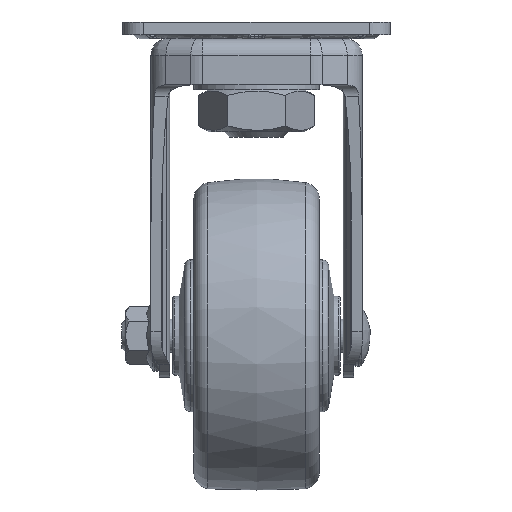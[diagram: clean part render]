
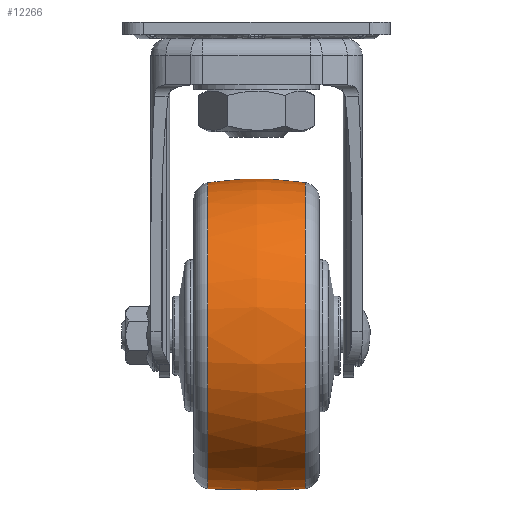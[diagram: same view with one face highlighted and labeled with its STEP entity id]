
A CAD part, left-side view. The second image highlights one B-rep face of the part: STEP entity #12266.
In plain terms, the highlighted free-form (B-spline) face has degree [2, 2] with [3, 9] control points.
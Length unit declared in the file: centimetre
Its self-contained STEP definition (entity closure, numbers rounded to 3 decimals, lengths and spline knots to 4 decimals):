
#3030=(
BOUNDED_CURVE()
B_SPLINE_CURVE(2,(#17763,#17764,#17765),.UNSPECIFIED.,.F.,.F.)
B_SPLINE_CURVE_WITH_KNOTS((3,3),(-0.1556,0.1556),
 .UNSPECIFIED.)
CURVE()
GEOMETRIC_REPRESENTATION_ITEM()
RATIONAL_B_SPLINE_CURVE((1.,0.988,1.))
REPRESENTATION_ITEM('')
);
#3061=(
BOUNDED_SURFACE()
B_SPLINE_SURFACE(2,2,((#17732,#17733,#17734,#17735,#17736,#17737,#17738,
#17739,#17740),(#17741,#17742,#17743,#17744,#17745,#17746,#17747,#17748,
#17749),(#17750,#17751,#17752,#17753,#17754,#17755,#17756,#17757,#17758)),
 .UNSPECIFIED.,.F.,.T.,.F.)
B_SPLINE_SURFACE_WITH_KNOTS((3,3),(3,2,2,2,3),(-0.1556,0.1556),
(-3.1416,-1.5708,0.,1.5708,3.1416),
 .UNSPECIFIED.)
GEOMETRIC_REPRESENTATION_ITEM()
RATIONAL_B_SPLINE_SURFACE(((1.,0.707,1.,0.707,1.,
0.707,1.,0.707,1.),(0.988,0.699,
0.988,0.699,0.988,0.699,
0.988,0.699,0.988),(1.,0.707,
1.,0.707,1.,0.707,1.,0.707,1.)))
REPRESENTATION_ITEM('')
SURFACE()
);
#3292=FACE_OUTER_BOUND('',#4027,.T.);
#4027=EDGE_LOOP('',(#8423,#8424,#8425,#8426,#8427,#8428));
#4873=CIRCLE('',#13005,3.6594);
#4874=CIRCLE('',#13006,3.6594);
#4875=CIRCLE('',#13007,3.6594);
#4876=CIRCLE('',#13008,3.6594);
#5499=VERTEX_POINT('',#17728);
#5500=VERTEX_POINT('',#17729);
#5501=VERTEX_POINT('',#17759);
#5502=VERTEX_POINT('',#17760);
#6643=EDGE_CURVE('',#5499,#5500,#4873,.T.);
#6644=EDGE_CURVE('',#5500,#5499,#4874,.T.);
#6645=EDGE_CURVE('',#5501,#5502,#4875,.T.);
#6646=EDGE_CURVE('',#5502,#5501,#4876,.T.);
#6647=EDGE_CURVE('',#5502,#5500,#3030,.T.);
#8423=ORIENTED_EDGE('',*,*,#6645,.F.);
#8424=ORIENTED_EDGE('',*,*,#6646,.F.);
#8425=ORIENTED_EDGE('',*,*,#6647,.T.);
#8426=ORIENTED_EDGE('',*,*,#6644,.T.);
#8427=ORIENTED_EDGE('',*,*,#6643,.T.);
#8428=ORIENTED_EDGE('',*,*,#6647,.F.);
#12266=ADVANCED_FACE('',(#3292),#3061,.F.);
#13005=AXIS2_PLACEMENT_3D('',#17730,#14295,#14296);
#13006=AXIS2_PLACEMENT_3D('',#17731,#14297,#14298);
#13007=AXIS2_PLACEMENT_3D('',#17761,#14299,#14300);
#13008=AXIS2_PLACEMENT_3D('',#17762,#14301,#14302);
#14295=DIRECTION('center_axis',(0.,1.,0.));
#14296=DIRECTION('ref_axis',(0.,0.,-1.));
#14297=DIRECTION('center_axis',(0.,1.,0.));
#14298=DIRECTION('ref_axis',(0.,0.,-1.));
#14299=DIRECTION('center_axis',(0.,1.,0.));
#14300=DIRECTION('ref_axis',(0.,0.,-1.));
#14301=DIRECTION('center_axis',(0.,1.,0.));
#14302=DIRECTION('ref_axis',(0.,0.,-1.));
#17728=CARTESIAN_POINT('',(-3.0638,-1.6961,-6.975));
#17729=CARTESIAN_POINT('',(0.5956,-1.6961,-3.3156));
#17730=CARTESIAN_POINT('Origin',(0.5956,-1.6961,-6.975));
#17731=CARTESIAN_POINT('Origin',(0.5956,-1.6961,-6.975));
#17732=CARTESIAN_POINT('Ctrl Pts',(0.5956,-1.6961,
-3.3156));
#17733=CARTESIAN_POINT('Ctrl Pts',(4.2551,-1.6961,-3.3156));
#17734=CARTESIAN_POINT('Ctrl Pts',(4.2551,-1.6961,-6.975));
#17735=CARTESIAN_POINT('Ctrl Pts',(4.2551,-1.6961,-10.6344));
#17736=CARTESIAN_POINT('Ctrl Pts',(0.5956,-1.6961,
-10.6344));
#17737=CARTESIAN_POINT('Ctrl Pts',(-3.0638,-1.6961,
-10.6344));
#17738=CARTESIAN_POINT('Ctrl Pts',(-3.0638,-1.6961,
-6.975));
#17739=CARTESIAN_POINT('Ctrl Pts',(-3.0638,-1.6961,
-3.3156));
#17740=CARTESIAN_POINT('Ctrl Pts',(0.5956,-1.6961,
-3.3156));
#17741=CARTESIAN_POINT('Ctrl Pts',(0.5956,-0.5341,
-3.1333));
#17742=CARTESIAN_POINT('Ctrl Pts',(4.4373,-0.5341,
-3.1333));
#17743=CARTESIAN_POINT('Ctrl Pts',(4.4373,-0.5341,
-6.975));
#17744=CARTESIAN_POINT('Ctrl Pts',(4.4373,-0.5341,
-10.8167));
#17745=CARTESIAN_POINT('Ctrl Pts',(0.5956,-0.5341,
-10.8167));
#17746=CARTESIAN_POINT('Ctrl Pts',(-3.246,-0.5341,
-10.8167));
#17747=CARTESIAN_POINT('Ctrl Pts',(-3.246,-0.5341,
-6.975));
#17748=CARTESIAN_POINT('Ctrl Pts',(-3.246,-0.5341,
-3.1333));
#17749=CARTESIAN_POINT('Ctrl Pts',(0.5956,-0.5341,
-3.1333));
#17750=CARTESIAN_POINT('Ctrl Pts',(0.5956,0.6278,
-3.3156));
#17751=CARTESIAN_POINT('Ctrl Pts',(4.2551,0.6278,-3.3156));
#17752=CARTESIAN_POINT('Ctrl Pts',(4.2551,0.6278,-6.975));
#17753=CARTESIAN_POINT('Ctrl Pts',(4.2551,0.6278,-10.6344));
#17754=CARTESIAN_POINT('Ctrl Pts',(0.5956,0.6278,
-10.6344));
#17755=CARTESIAN_POINT('Ctrl Pts',(-3.0638,0.6278,
-10.6344));
#17756=CARTESIAN_POINT('Ctrl Pts',(-3.0638,0.6278,
-6.975));
#17757=CARTESIAN_POINT('Ctrl Pts',(-3.0638,0.6278,
-3.3156));
#17758=CARTESIAN_POINT('Ctrl Pts',(0.5956,0.6278,
-3.3156));
#17759=CARTESIAN_POINT('',(-3.0638,0.6278,-6.975));
#17760=CARTESIAN_POINT('',(0.5956,0.6278,-3.3156));
#17761=CARTESIAN_POINT('Origin',(0.5956,0.6278,-6.975));
#17762=CARTESIAN_POINT('Origin',(0.5956,0.6278,-6.975));
#17763=CARTESIAN_POINT('Ctrl Pts',(0.5956,0.6278,
-3.3156));
#17764=CARTESIAN_POINT('Ctrl Pts',(0.5956,-0.5341,
-3.1333));
#17765=CARTESIAN_POINT('Ctrl Pts',(0.5956,-1.6961,
-3.3156));
